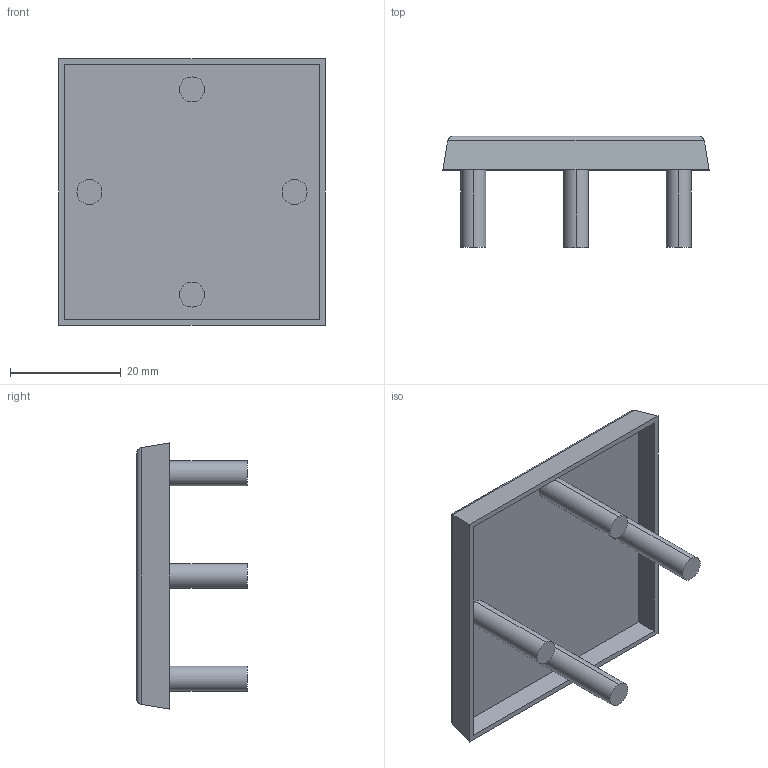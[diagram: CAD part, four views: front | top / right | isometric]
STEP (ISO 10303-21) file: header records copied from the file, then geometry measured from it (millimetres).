
FILE_DESCRIPTION((''),'2;1');
FILE_NAME('48X48_ADAPTER_IGESFILE','2012-04-04T',('chrisloe'),(''),'PRO/ENGINEER BY PARAMETRIC TECHNOLOGY CORPORATION, 2010180','PRO/ENGINEER BY PARAMETRIC TECHNOLOGY CORPORATION, 2010180','');
FILE_SCHEMA(('CONFIG_CONTROL_DESIGN'));
Length unit declared in the file: millimetre
Products named in the file (1): 48X48_ADAPTER_IGESFILE
Bounding box: 48 x 20 x 48 mm (x, y, z)
Volume: 5910.7 mm3; surface area: 7263.9 mm2
Topology: 1 solids, 1 shells, 27 faces, 56 edges, 36 vertices
Faces by surface type: plane 15, cylinder 12
Entity records: 773 total; most frequent: CARTESIAN_POINT 148, DIRECTION 122, ORIENTED_EDGE 112, EDGE_CURVE 56, AXIS2_PLACEMENT_3D 43, VECTOR 36, LINE 36, VERTEX_POINT 36
